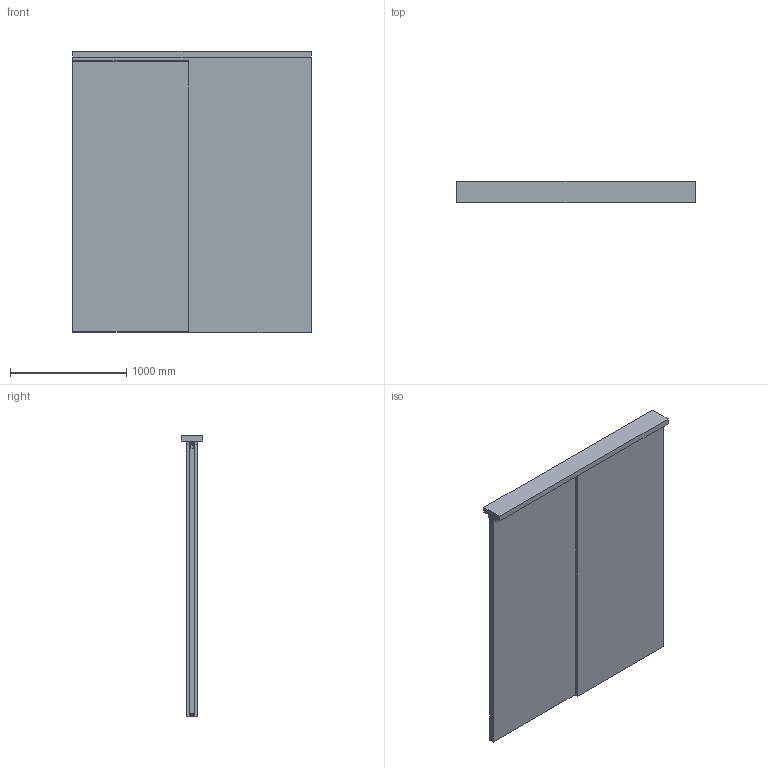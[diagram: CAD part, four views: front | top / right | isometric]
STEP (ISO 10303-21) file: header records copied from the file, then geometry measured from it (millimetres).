
FILE_DESCRIPTION(('STEP AP242'),'1');
FILE_NAME('OPO_65.080.16.stp','2026-01-14T05:26:22',(' '),(' '),'Spatial InterOp 3D',' ',' ');
FILE_SCHEMA(('AP242_MANAGED_MODEL_BASED_3D_ENGINEERING_MIM_LF {1 0 10303 442 1 1 4}'));
Length unit declared in the file: millimetre
Products named in the file (7): Zeichnung2; OPO_65.080.16_Bodenfuehrung_Holz; OPO_65.082.78; OPO_65.080.16_Laufwerk; OPO_65.080.16_Aufhaengung_minimal_Holz; OPO_65.082.61; AutoCreatedBlock_14E
Assembly tree (9 placements, depth 2):
  Zeichnung2
    OPO_65.080.16_Bodenfuehrung_Holz
    OPO_65.082.78  x2
    OPO_65.080.16_Laufwerk  x2
    OPO_65.080.16_Aufhaengung_minimal_Holz  x2
    OPO_65.082.61
    AutoCreatedBlock_14E
Bounding box: 2050.5 x 188 x 2418 mm (x, y, z)
Volume: 213774613.9 mm3; surface area: 17349800.9 mm2
Topology: 70 solids, 70 shells, 1104 faces, 2762 edges, 1830 vertices
Faces by surface type: plane 644, cylinder 436, cone 24
Entity records: 26175 total; most frequent: CARTESIAN_POINT 3649, DIRECTION 3617, ORIENTED_EDGE 3422, EDGE_CURVE 1711, AXIS2_PLACEMENT_3D 1221, LINE 1175, VECTOR 1175, VERTEX_POINT 1134
